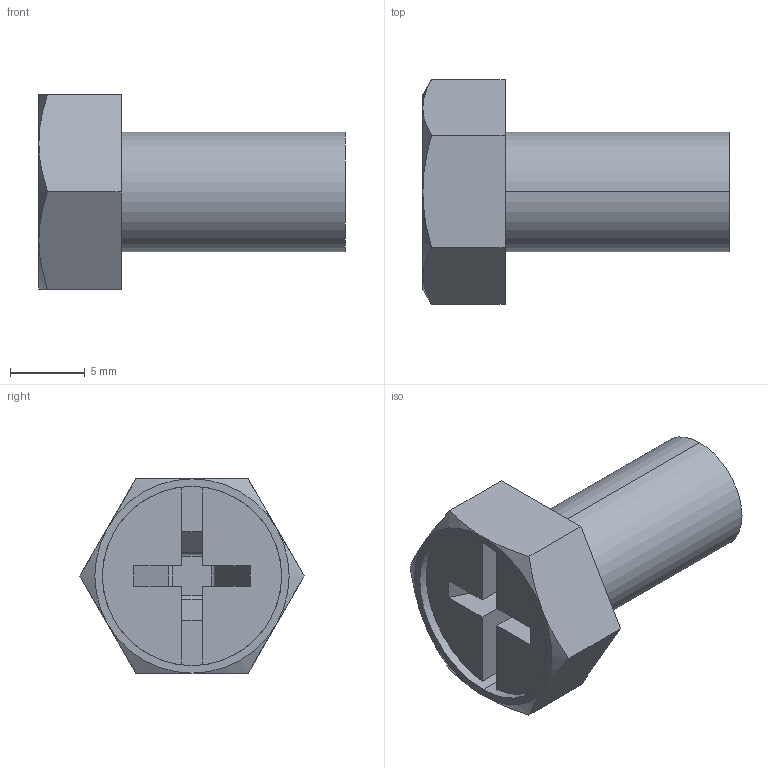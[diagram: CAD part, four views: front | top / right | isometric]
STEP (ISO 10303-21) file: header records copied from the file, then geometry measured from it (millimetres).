
FILE_DESCRIPTION (( 'STEP AP203' ), '1' );
FILE_NAME ('EB-951-8M15.STEP', '2013-12-26T07:29:17', ( 'SDS' ), ( 'SDS' ), 'SwSTEP 2.0', 'SolidWorks 2002296', '' );
FILE_SCHEMA (( 'CONFIG_CONTROL_DESIGN' ));
Length unit declared in the file: millimetre
Products named in the file (1): EB-951-8M15
Bounding box: 20.5 x 15.01 x 13 mm (x, y, z)
Volume: 1410.9 mm3; surface area: 1049.1 mm2
Topology: 1 solids, 1 shells, 40 faces, 102 edges, 66 vertices
Faces by surface type: plane 26, cylinder 8, cone 6
Entity records: 1293 total; most frequent: CARTESIAN_POINT 245, ORIENTED_EDGE 204, DIRECTION 198, EDGE_CURVE 102, AXIS2_PLACEMENT_3D 67, VERTEX_POINT 66, LINE 64, VECTOR 64
